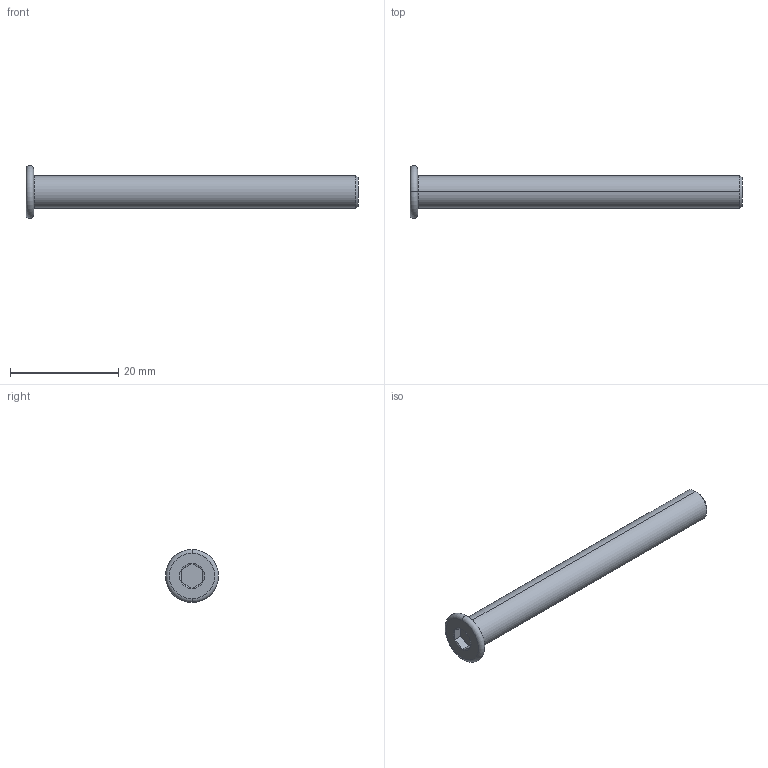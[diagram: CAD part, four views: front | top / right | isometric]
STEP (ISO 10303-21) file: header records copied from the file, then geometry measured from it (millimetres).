
FILE_DESCRIPTION (( 'STEP AP203' ), '1' );
FILE_NAME ('LGD-304M-M6x60.STEP', '2026-08-13T13:02:32', ( '' ), ( '' ), 'SwSTEP 2.0', 'SolidWorks 2020', '' );
FILE_SCHEMA (( 'CONFIG_CONTROL_DESIGN' ));
Length unit declared in the file: millimetre
Products named in the file (1): LGD-304M-M6x60
Bounding box: 61.4 x 9.8 x 9.8 mm (x, y, z)
Volume: 1772.1 mm3; surface area: 1321.9 mm2
Topology: 1 solids, 1 shells, 24 faces, 44 edges, 24 vertices
Faces by surface type: plane 10, cone 8, torus 4, cylinder 2
Entity records: 673 total; most frequent: CARTESIAN_POINT 119, DIRECTION 110, ORIENTED_EDGE 88, AXIS2_PLACEMENT_3D 47, EDGE_CURVE 44, EDGE_LOOP 26, FACE_OUTER_BOUND 24, VERTEX_POINT 24
